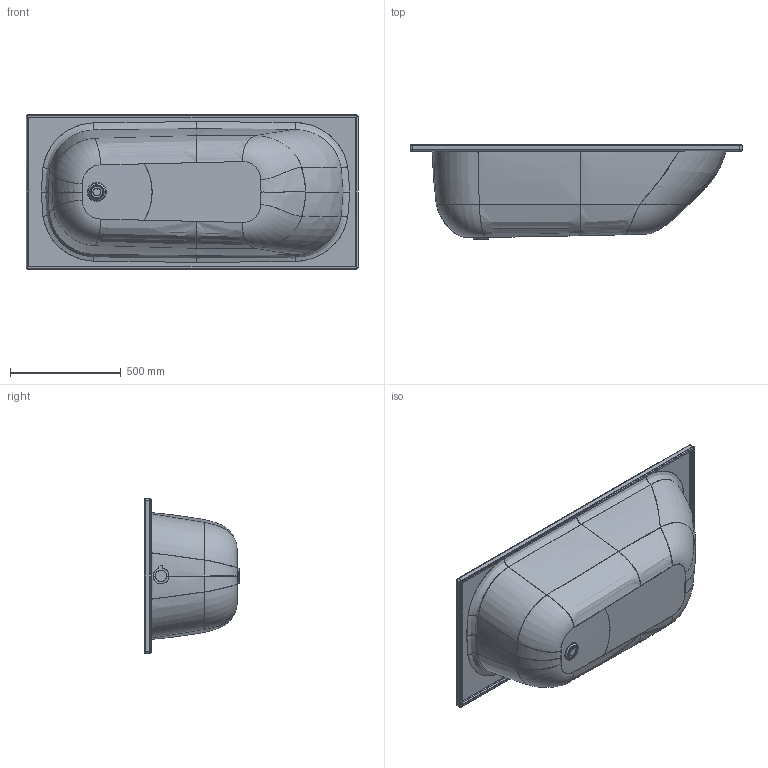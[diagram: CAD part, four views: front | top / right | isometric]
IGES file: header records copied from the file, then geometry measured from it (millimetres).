
Start section: Write IGES format                                    datakit 2008 (c)
Global section: file name: Unknown; native system: DATAKIT Converter; preprocessor: Unknown; author: Unknown; organization: Unknown; date: 950613.180003; units: millimetre
Bounding box: 1500 x 430 x 700 mm (x, y, z)
Surface area: 4133632.9 mm2 (no closed solid volume)
Topology: 0 solids, 0 shells, 171 faces, 1007 edges, 1002 vertices
Faces by surface type: bspline 77, revolution 70, offset 24
